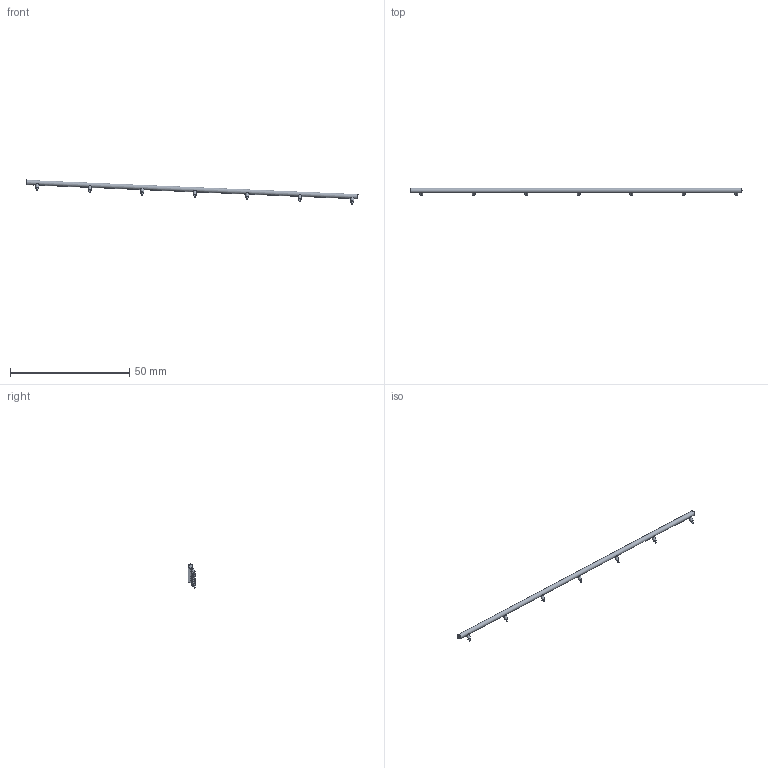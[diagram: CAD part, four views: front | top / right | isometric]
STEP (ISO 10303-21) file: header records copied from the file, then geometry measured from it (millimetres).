
FILE_DESCRIPTION(/* description */ ('','CAx-IF Rec.Pracs.---Representation and Presentation of Product Manufacturing Information (PMI)---4.0---2014-10-13'),/* implementation_level */ '2;1');
FILE_NAME(/* name */ '20elcohandraildcstbdfwd.step',/* time_stamp */ '2025-03-07T14:17:16+11:00',/* author */ (''),/* organization */ (''),/* preprocessor_version */ 'ST-DEVELOPER v20',/* originating_system */ 'Autodesk Translation Framework v13.20.0.188',/* authorisation */ '');
FILE_SCHEMA (('AP242_MANAGED_MODEL_BASED_3D_ENGINEERING_MIM_LF { 1 0 10303 442 1 1 4 }'));
Length unit declared in the file: millimetre
Products named in the file (1): RearRoundLocker
Bounding box: 139.01 x 3.33 x 10.1 mm (x, y, z)
Volume: 453.8 mm3; surface area: 939.4 mm2
Topology: 1 solids, 1 shells, 40 faces, 72 edges, 48 vertices
Faces by surface type: plane 16, cylinder 15, bspline 7, torus 2
Full cylindrical faces by diameter (mm): 0.5 x7, 1.25 x7, 2 x1
Entity records: 1984 total; most frequent: CARTESIAN_POINT 1176, DIRECTION 155, ORIENTED_EDGE 144, EDGE_CURVE 72, AXIS2_PLACEMENT_3D 70, EDGE_LOOP 54, VERTEX_POINT 48, FACE_OUTER_BOUND 40
